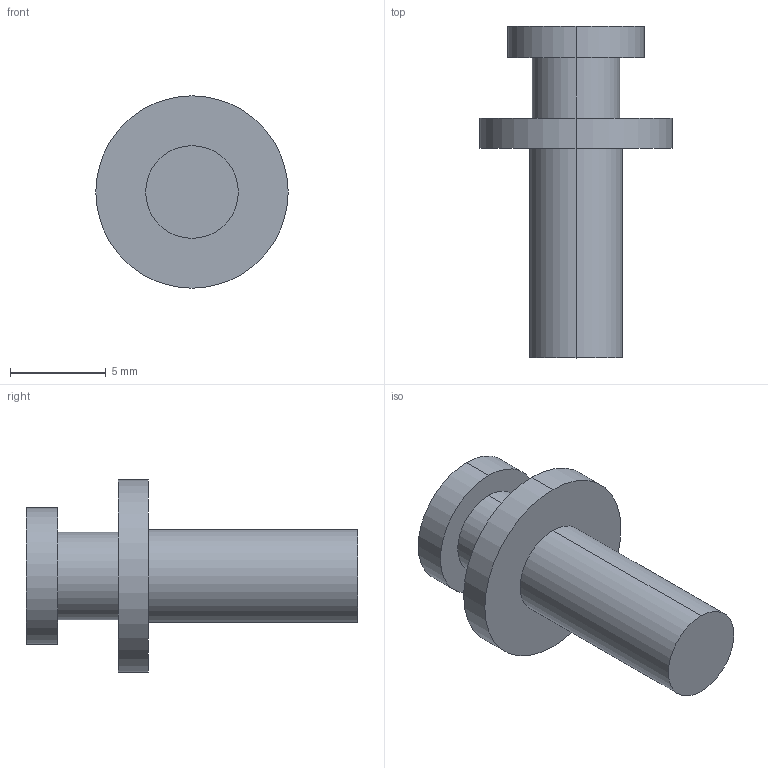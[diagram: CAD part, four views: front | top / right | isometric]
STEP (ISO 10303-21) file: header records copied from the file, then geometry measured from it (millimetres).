
FILE_DESCRIPTION (( 'STEP AP214' ), '1' );
FILE_NAME ('5045_V01_REF_PRT_SH_SCR.STEP', '2026-01-20T15:07:04', ( '' ), ( '' ), 'SwSTEP 2.0', 'SolidWorks 2025', '' );
FILE_SCHEMA (( 'AUTOMOTIVE_DESIGN' ));
Length unit declared in the file: inch
Products named in the file (1): 5045_V01_REF_PRT_SH_SCR
Bounding box: 10.03 x 17.29 x 10.03 mm (x, y, z)
Volume: 440.3 mm3; surface area: 501.8 mm2
Topology: 1 solids, 1 shells, 13 faces, 24 edges, 16 vertices
Faces by surface type: cylinder 8, plane 5
Entity records: 361 total; most frequent: DIRECTION 68, CARTESIAN_POINT 54, ORIENTED_EDGE 48, AXIS2_PLACEMENT_3D 30, EDGE_CURVE 24, VERTEX_POINT 16, EDGE_LOOP 16, CIRCLE 16
